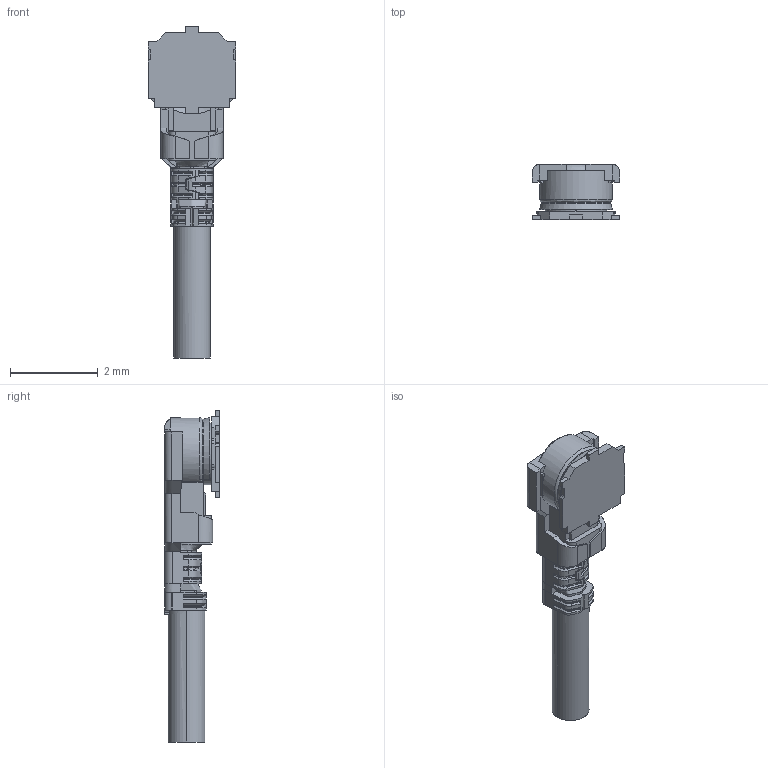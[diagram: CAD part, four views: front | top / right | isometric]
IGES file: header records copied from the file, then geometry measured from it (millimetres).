
Start section: SolidWorks IGES file using analytic representation for surfaces
Global section: file name: D:\3dwork\Toida\20714 3D model for I-PEX web\20566C + 20714C(0.84) MATING R6R1 IGES ALL.IGS; native system: SolidWorks 2025; preprocessor: SolidWorks 2025; author: E0556; date: 260713.130050; units: millimetre
Bounding box: 2 x 1.25 x 7.55 mm (x, y, z)
Surface area: 38.4 mm2 (no closed solid volume)
Topology: 0 solids, 0 shells, 438 faces, 2554 edges, 2550 vertices
Faces by surface type: bspline 304, revolution 134
